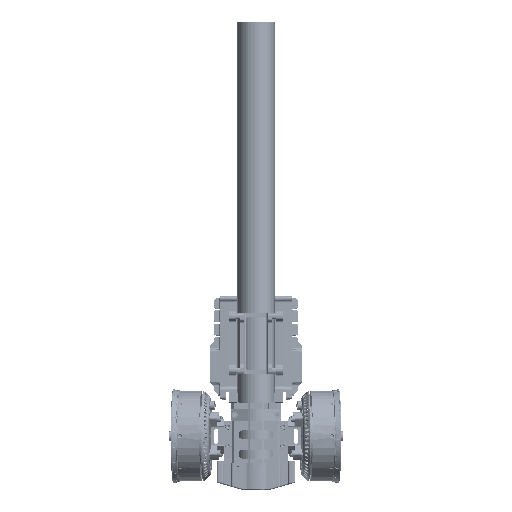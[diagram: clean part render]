
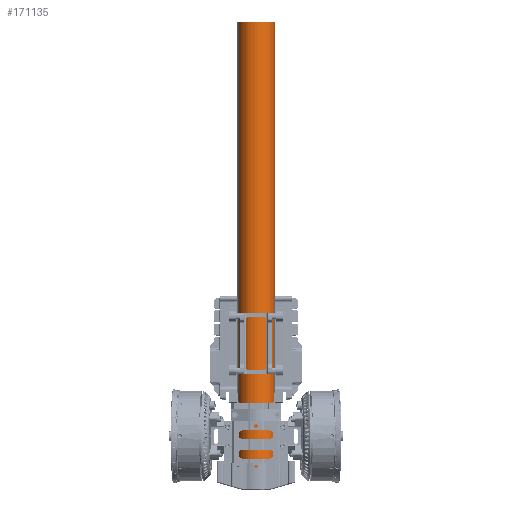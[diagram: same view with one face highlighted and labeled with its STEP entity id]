
A CAD part, left-side view. The second image highlights one B-rep face of the part: STEP entity #171135.
In plain terms, the highlighted cylindrical face has radius 25 mm (diameter 50 mm), a partial arc.
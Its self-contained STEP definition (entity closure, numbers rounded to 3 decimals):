
#1975 = CARTESIAN_POINT ( 'NONE',  ( 10.881, -22.508, -44. ) ) ;
#21246 = VERTEX_POINT ( 'NONE', #152707 ) ;
#30109 = EDGE_CURVE ( 'NONE', #321140, #30175, #270768, .T. ) ;
#30175 = VERTEX_POINT ( 'NONE', #1975 ) ;
#71116 = EDGE_CURVE ( 'NONE', #248071, #321140, #268060, .T. ) ;
#76685 = AXIS2_PLACEMENT_3D ( 'NONE', #193922, #245130, #161158 ) ;
#87028 = AXIS2_PLACEMENT_3D ( 'NONE', #207180, #203588, #176150 ) ;
#93247 = CARTESIAN_POINT ( 'NONE',  ( -10.881, 22.508, 556. ) ) ;
#97851 = ORIENTED_EDGE ( 'NONE', *, *, #71116, .F. ) ;
#100635 = DIRECTION ( 'NONE',  ( 0., 0., -1. ) ) ;
#109833 = DIRECTION ( 'NONE',  ( 0., 0., -1. ) ) ;
#109895 = FACE_OUTER_BOUND ( 'NONE', #185170, .T. ) ;
#110467 = AXIS2_PLACEMENT_3D ( 'NONE', #303613, #325604, #157554 ) ;
#110776 = EDGE_CURVE ( 'NONE', #248071, #21246, #350924, .T. ) ;
#133708 = CYLINDRICAL_SURFACE ( 'NONE', #76685, 25. ) ;
#142080 = ORIENTED_EDGE ( 'NONE', *, *, #30109, .F. ) ;
#152707 = CARTESIAN_POINT ( 'NONE',  ( -10.881, 22.508, -44. ) ) ;
#157554 = DIRECTION ( 'NONE',  ( -0.435, 0.9, 0. ) ) ;
#161158 = DIRECTION ( 'NONE',  ( 0.435, -0.9, 0. ) ) ;
#162588 = CARTESIAN_POINT ( 'NONE',  ( 10.881, -22.508, 556. ) ) ;
#171135 = ADVANCED_FACE ( 'NONE', ( #109895 ), #133708, .T. ) ;
#176150 = DIRECTION ( 'NONE',  ( -0.435, 0.9, 0. ) ) ;
#185170 = EDGE_LOOP ( 'NONE', ( #97851, #278526, #294754, #142080 ) ) ;
#188267 = CARTESIAN_POINT ( 'NONE',  ( -10.881, 22.508, 556. ) ) ;
#193922 = CARTESIAN_POINT ( 'NONE',  ( 0., 0., 556. ) ) ;
#201472 = EDGE_CURVE ( 'NONE', #21246, #30175, #297338, .T. ) ;
#203588 = DIRECTION ( 'NONE',  ( 0., 0., 1. ) ) ;
#207180 = CARTESIAN_POINT ( 'NONE',  ( 0., 0., -44. ) ) ;
#218906 = VECTOR ( 'NONE', #109833, 1000. ) ;
#245130 = DIRECTION ( 'NONE',  ( 0., 0., -1. ) ) ;
#248071 = VERTEX_POINT ( 'NONE', #93247 ) ;
#248687 = CARTESIAN_POINT ( 'NONE',  ( 10.881, -22.508, 556. ) ) ;
#268060 = CIRCLE ( 'NONE', #110467, 25. ) ;
#270768 = LINE ( 'NONE', #248687, #218906 ) ;
#278526 = ORIENTED_EDGE ( 'NONE', *, *, #110776, .T. ) ;
#294754 = ORIENTED_EDGE ( 'NONE', *, *, #201472, .T. ) ;
#297338 = CIRCLE ( 'NONE', #87028, 25. ) ;
#301329 = VECTOR ( 'NONE', #100635, 1000. ) ;
#303613 = CARTESIAN_POINT ( 'NONE',  ( 0., 0., 556. ) ) ;
#321140 = VERTEX_POINT ( 'NONE', #162588 ) ;
#325604 = DIRECTION ( 'NONE',  ( 0., 0., 1. ) ) ;
#350924 = LINE ( 'NONE', #188267, #301329 ) ;
